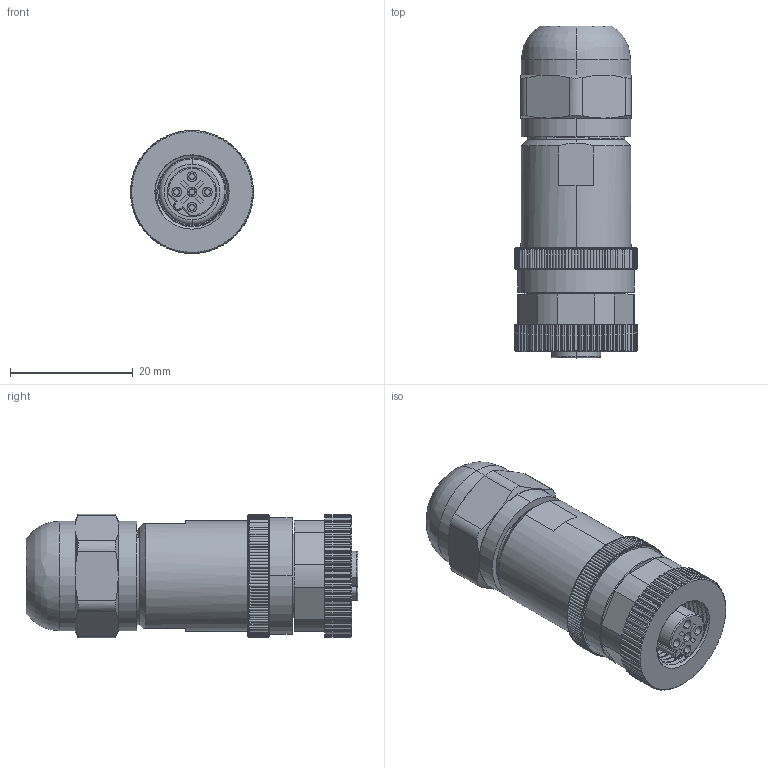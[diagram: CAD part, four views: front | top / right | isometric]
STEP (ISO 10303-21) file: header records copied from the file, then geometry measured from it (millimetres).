
FILE_DESCRIPTION((''),'2;1');
FILE_NAME('XC-M12P-WK-PG9','2025-06-23T15:44:01',('lyj'),(''),'CREO PARAMETRIC BY PTC INC, 2019010','CREO PARAMETRIC BY PTC INC, 2019010','');
FILE_SCHEMA(('CONFIG_CONTROL_DESIGN'));
Length unit declared in the file: millimetre
Products named in the file (1): XC-M12P-WK-PG9
Bounding box: 20 x 54 x 20.16 mm (x, y, z)
Volume: 8243.7 mm3; surface area: 13060 mm2
Topology: 1 solids, 19 shells, 1808 faces, 4731 edges, 3022 vertices
Faces by surface type: cylinder 853, plane 460, cone 375, bspline 61, torus 30, extrusion 29
Entity records: 89772 total; most frequent: CARTESIAN_POINT 46995, ORIENTED_EDGE 9462, DIRECTION 8282, EDGE_CURVE 4731, AXIS2_PLACEMENT_3D 3275, VERTEX_POINT 3022, EDGE_LOOP 1909, FACE_OUTER_BOUND 1808
